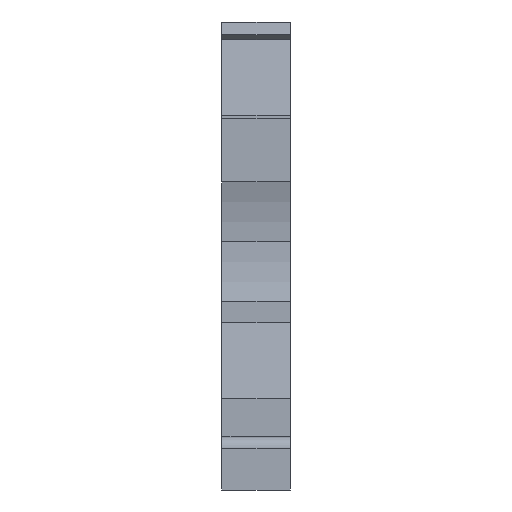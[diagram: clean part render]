
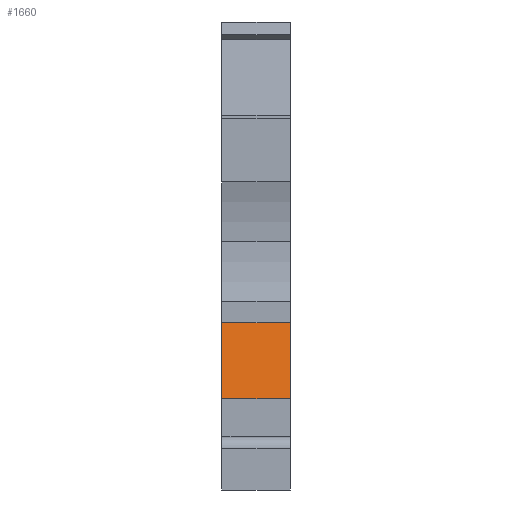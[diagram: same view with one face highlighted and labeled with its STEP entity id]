
A CAD part, front view. The second image highlights one B-rep face of the part: STEP entity #1660.
In plain terms, the highlighted planar face has unit normal (0, -0.985, 0.174).
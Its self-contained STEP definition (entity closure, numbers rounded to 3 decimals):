
#275=CARTESIAN_POINT('',(5.15,3.6,6.862));
#276=VERTEX_POINT('',#275);
#283=CARTESIAN_POINT('',(0.,3.6,6.862));
#284=VERTEX_POINT('',#283);
#285=CARTESIAN_POINT('',(0.,3.6,6.862));
#286=DIRECTION('',(1.,0.,0.));
#287=VECTOR('',#286,5.15);
#288=LINE('',#285,#287);
#289=EDGE_CURVE('',#284,#276,#288,.T.);
#1630=CARTESIAN_POINT('',(0.15,4.405,11.426));
#1631=DIRECTION('',(0.,-0.985,0.174));
#1632=DIRECTION('',(0.,-0.174,-0.985));
#1633=AXIS2_PLACEMENT_3D('',#1630,#1631,#1632);
#1634=PLANE('',#1633);
#1635=ORIENTED_EDGE('',*,*,#289,.T.);
#1636=CARTESIAN_POINT('',(5.15,4.612,12.6));
#1637=VERTEX_POINT('',#1636);
#1638=CARTESIAN_POINT('',(5.15,3.6,6.862));
#1639=DIRECTION('',(-0.,0.174,0.985));
#1640=VECTOR('',#1639,5.827);
#1641=LINE('',#1638,#1640);
#1642=EDGE_CURVE('',#276,#1637,#1641,.T.);
#1643=ORIENTED_EDGE('',*,*,#1642,.T.);
#1644=CARTESIAN_POINT('',(0.,4.612,12.6));
#1645=VERTEX_POINT('',#1644);
#1646=CARTESIAN_POINT('',(0.,4.612,12.6));
#1647=DIRECTION('',(1.,0.,0.));
#1648=VECTOR('',#1647,5.15);
#1649=LINE('',#1646,#1648);
#1650=EDGE_CURVE('',#1645,#1637,#1649,.T.);
#1651=ORIENTED_EDGE('',*,*,#1650,.F.);
#1652=CARTESIAN_POINT('',(0.,3.6,6.862));
#1653=DIRECTION('',(-0.,0.174,0.985));
#1654=VECTOR('',#1653,5.827);
#1655=LINE('',#1652,#1654);
#1656=EDGE_CURVE('',#284,#1645,#1655,.T.);
#1657=ORIENTED_EDGE('',*,*,#1656,.F.);
#1658=EDGE_LOOP('',(#1635,#1643,#1651,#1657));
#1659=FACE_BOUND('',#1658,.T.);
#1660=ADVANCED_FACE('',(#1659),#1634,.T.);
